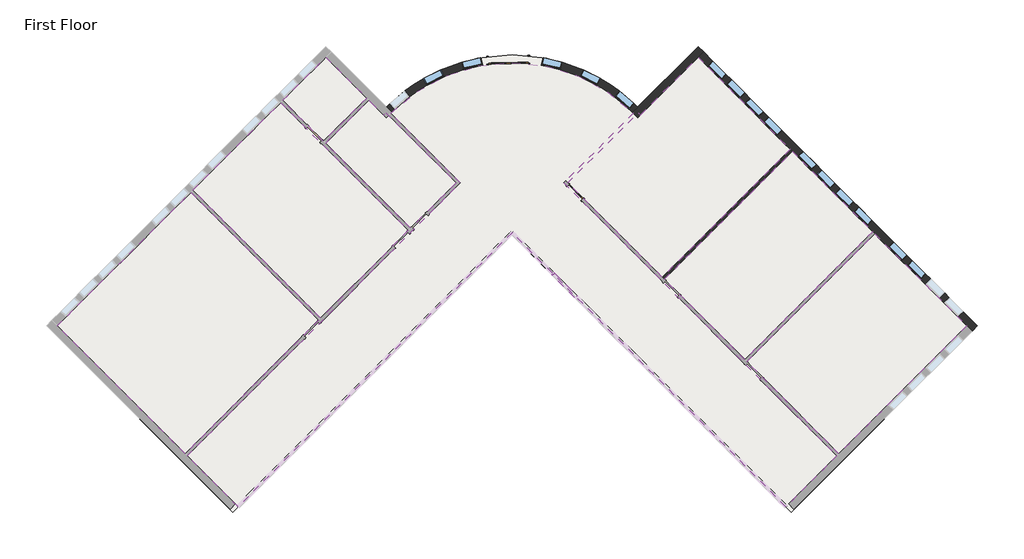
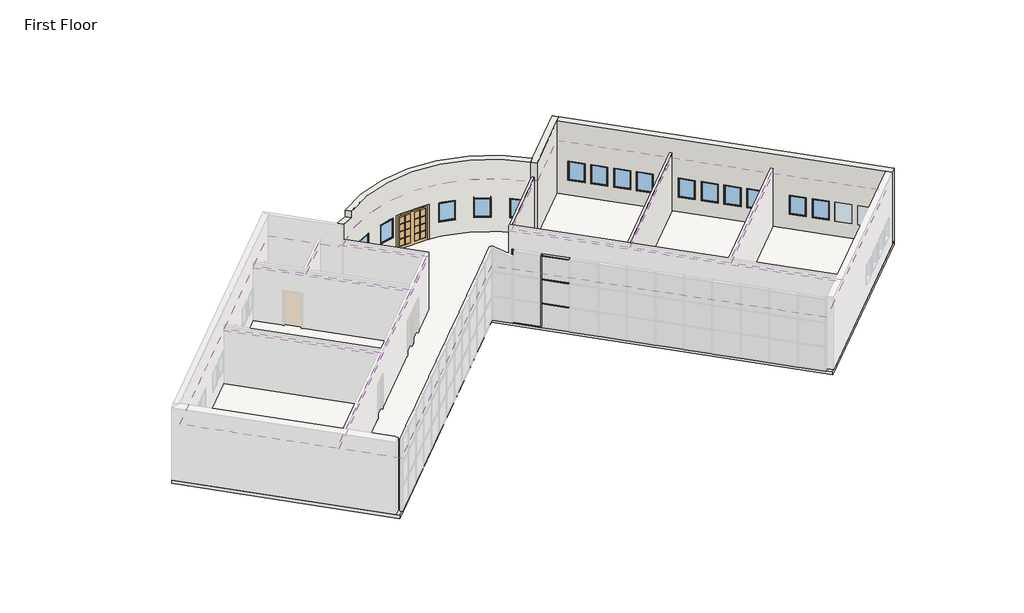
# One storey, part 4 of 4: 15 windows, 8 coverings, 7 members, 5 walls, 2 doors, 1 slab.
"""IFC4 building model written with IfcOpenShell, lengths in millimetres."""

from ifc_helpers import new_model, si_unit, point, frame, frame_2d, origin, origin_with_axes, place, context, project, spatial, polyline, circle_curve, ellipse_curve, trimmed, segment, composite_curve, outline, extrude, faceted_brep, transform, mapped, element, save
from ifc_brep_helpers import plane_surface, cylinder_surface, revolved_surface, advanced_brep
from components import m_double_glass_2_1830_x_2134mm_ef281dce, m_single_glass_1_0915_x_2134mm_4e5e1233, rectangular_mullion_50_x_150mm_40297ad3, rectangular_mullion_50_x_150mm_f494fff1, rectangular_mullion_50_x_150mm_5da8f88f, m_fixed_0915_x_1220mm_bde29121, m_fixed_0915_x_1220mm_2a2509e7

model = new_model("IFC4")

# Units and contexts
model_context = context("Model", 3, world=origin())
ifc_project = project(units=[si_unit("LENGTHUNIT", "METRE", prefix="MILLI")], contexts=[model_context])

# Site, building, storey
site = spatial("IfcSite", under=ifc_project)
building = spatial("IfcBuilding", under=site)
storey = spatial("IfcBuildingStorey", under=building, Name="First Floor", Elevation=0.0)

# Coverings
placement = place(None, origin())
element("IfcCovering", 1, ObjectType="600 x 600mm grid", at=placement, inside=storey, context=model_context, shape_type="SweptSolid", body=[
    extrude(outline(polyline([(-10551.8033322, -2052.473346), (-16737.0431239, -8237.7131378), (-22658.8856396, -2315.870622), (-16473.6458479, 3869.3691697), (-10551.8033322, -2052.473346)])), frame((0.0, 0.0, 3353.0), z_axis=(0.0, 0.0, 1.0), x_axis=(1.0, 0.0, 0.0)), (0.0, 0.0, 1.0), 52.0),
])
element("IfcCovering", 2, ObjectType="600 x 600mm grid", at=placement, inside=storey, context=model_context, shape_type="SweptSolid", body=[
    extrude(outline(polyline([(-16375.7115587, 3967.3034589), (-12319.9238385, 8023.0911791), (-6398.0813228, 2101.2486633), (-10453.869043, -1954.5390569), (-16375.7115587, 3967.3034589)])), frame((0.0, 0.0, 3353.0), z_axis=(0.0, 0.0, 1.0), x_axis=(1.0, 0.0, 0.0)), (0.0, 0.0, 1.0), 52.0),
])
element("IfcCovering", 3, ObjectType="600 x 600mm grid", at=placement, inside=storey, context=model_context, shape_type="SweptSolid", body=[
    extrude(outline(polyline([(-8233.7305267, 8132.1624001), (-7543.133828, 7441.5657013), (-7436.5374807, 7548.1620486), (-4193.8527091, 4305.477277), (-6300.1470336, 2199.1829525), (-10233.4285039, 6132.4644229), (-8233.7305267, 8132.1624001)])), frame((0.0, 0.0, 3353.0), z_axis=(0.0, 0.0, 1.0), x_axis=(1.0, 0.0, 0.0)), (0.0, 0.0, 1.0), 52.0),
])
element("IfcCovering", 4, ObjectType="600 x 600mm grid", at=placement, inside=storey, context=model_context, shape_type="SweptSolid", body=[
    extrude(outline(polyline([(-12221.9895493, 8121.0254683), (-10222.2915721, 10120.7234455), (-8331.6648159, 8230.0966893), (-10331.3627931, 6230.3987121), (-12221.9895493, 8121.0254683)])), frame((0.0, 0.0, 3353.0), z_axis=(0.0, 0.0, 1.0), x_axis=(1.0, 0.0, 0.0)), (0.0, 0.0, 1.0), 52.0),
])
element("IfcCovering", 5, ObjectType="600 x 600mm grid", at=placement, inside=storey, context=model_context, shape_type="SweptSolid", body=[
    extrude(outline(composite_curve([segment(polyline([(795.4927389, 4305.477277), (13436.6174429, -8335.647427), (11082.835745, -10689.4291248), (-1601.2456959, 1994.6523161), (-14285.3271368, -10689.4291248), (-16639.1088347, -8335.647427), (-3997.9841307, 4305.477277), (-7216.038281, 7523.5314273)]), True, "CONTINUOUS"), segment(trimmed(circle_curve(frame_2d((-1601.2456959, 1994.6523161)), 7880.0), [point((-7216.038281, 7523.5314273))], [point((4013.5468892, 7523.5314273))], False, "CARTESIAN"), True, "CONTINUOUS"), segment(polyline([(4013.5468892, 7523.5314273), (795.4927389, 4305.477277)]), True, "CONTINUOUS")], self_intersect=False)), frame((0.0, 0.0, 3353.0), z_axis=(0.0, 0.0, 1.0), x_axis=(1.0, 0.0, 0.0)), (0.0, 0.0, 1.0), 52.0),
])
element("IfcCovering", 6, ObjectType="600 x 600mm grid", at=placement, inside=storey, context=model_context, shape_type="SweptSolid", body=[
    extrude(outline(polyline([(4234.0460889, 7548.1620486), (4340.6424361, 7441.5657013), (7019.8001803, 10120.7234455), (11281.3559738, 5859.167652), (5359.5134581, -62.6748638), (991.3613173, 4305.477277), (4234.0460889, 7548.1620486)])), frame((0.0, 0.0, 3353.0), z_axis=(0.0, 0.0, 1.0), x_axis=(1.0, 0.0, 0.0)), (0.0, 0.0, 1.0), 52.0),
])
element("IfcCovering", 7, ObjectType="600 x 600mm grid", at=placement, inside=storey, context=model_context, shape_type="SweptSolid", body=[
    extrude(outline(polyline([(11379.290263, 5761.2333628), (15096.9041651, 2043.6194607), (9175.0616494, -3878.2230551), (5457.4477473, -160.609153), (11379.290263, 5761.2333628)])), frame((0.0, 0.0, 3353.0), z_axis=(0.0, 0.0, 1.0), x_axis=(1.0, 0.0, 0.0)), (0.0, 0.0, 1.0), 52.0),
])
element("IfcCovering", 8, ObjectType="600 x 600mm grid", at=placement, inside=storey, context=model_context, shape_type="SweptSolid", body=[
    extrude(outline(polyline([(15194.8384543, 1945.6851715), (19456.3942478, -2315.870622), (13534.5517321, -8237.7131378), (9272.9959386, -3976.1573443), (15194.8384543, 1945.6851715)])), frame((0.0, 0.0, 3353.0), z_axis=(0.0, 0.0, 1.0), x_axis=(1.0, 0.0, 0.0)), (0.0, 0.0, 1.0), 52.0),
])

# Doors
m_double_glass_2_1830_x_2134mm_shape = m_double_glass_2_1830_x_2134mm_ef281dce(model_context)
element("IfcDoor", 9, ObjectType="M_Double-Glass 2 : 1830 x 2134mm", at=placement, inside=storey, context=model_context, shape_type="MappedRepresentation", body=[
    mapped(m_double_glass_2_1830_x_2134mm_shape, transform((-1775.1372024, 9996.7407669, 0.0), x_axis=(-0.9997639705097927, -0.021725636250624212, 0.0), y_axis=(0.021725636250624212, -0.9997639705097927, 0.0), z_axis=(0.0, 0.0, 1.0))),
])
m_single_glass_1_0915_x_2134mm_shape = m_single_glass_1_0915_x_2134mm_4e5e1233(model_context)
element("IfcDoor", 10, ObjectType="M_Single-Glass 1 : 0915 x 2134mm", at=placement, inside=storey, context=model_context, shape_type="MappedRepresentation", body=[
    mapped(m_single_glass_1_0915_x_2134mm_shape, transform((1324.7621646, 3874.1421405, 0.0), x_axis=(-0.7071067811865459, 0.7071067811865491, 0.0), y_axis=(-0.7071067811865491, -0.7071067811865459, 0.0), z_axis=(0.0, 0.0, 1.0))),
])

# Members
rectangular_mullion_50_x_150mm_shape = rectangular_mullion_50_x_150mm_40297ad3(model_context)
element("IfcMember", 11, ObjectType="Rectangular Mullion : 50 x 150mm", at=placement, inside=storey, context=model_context, shape_type="MappedRepresentation", body=[
    mapped(rectangular_mullion_50_x_150mm_shape, transform((306.5283995, 86.8782206, 0.0), x_axis=(-0.7071067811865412, 0.7071067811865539, 0.0), y_axis=(0.7071067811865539, 0.7071067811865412, 0.0), z_axis=(0.0, 0.0, -1.0))),
])
rectangular_mullion_50_x_150mm_2_shape = rectangular_mullion_50_x_150mm_f494fff1(model_context)
element("IfcMember", 12, ObjectType="Rectangular Mullion : 50 x 150mm", at=placement, inside=storey, context=model_context, shape_type="MappedRepresentation", body=[
    mapped(rectangular_mullion_50_x_150mm_2_shape, transform((324.206069, 69.2005511, 1524.0), x_axis=(0.0, 0.0, 1.0), y_axis=(0.7071067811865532, 0.7071067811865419, 0.0), z_axis=(-0.7071067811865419, 0.7071067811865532, 0.0))),
])
element("IfcMember", 13, ObjectType="Rectangular Mullion : 50 x 150mm", at=placement, inside=storey, context=model_context, shape_type="MappedRepresentation", body=[
    mapped(rectangular_mullion_50_x_150mm_2_shape, transform((324.206069, 69.2005511, 3048.0), x_axis=(0.0, 0.0, 1.0), y_axis=(0.7071067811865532, 0.7071067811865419, 0.0), z_axis=(-0.7071067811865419, 0.7071067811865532, 0.0))),
])
rectangular_mullion_50_x_150mm_3_shape = rectangular_mullion_50_x_150mm_5da8f88f(model_context)
element("IfcMember", 14, ObjectType="Rectangular Mullion : 50 x 150mm", at=placement, inside=storey, context=model_context, shape_type="MappedRepresentation", body=[
    mapped(rectangular_mullion_50_x_150mm_3_shape, transform((288.85073, 104.5558902, 0.0), x_axis=(0.0, 0.0, -1.0), y_axis=(0.7071067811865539, 0.7071067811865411, 0.0), z_axis=(0.7071067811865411, -0.7071067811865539, 0.0))),
])
element("IfcMember", 15, ObjectType="Rectangular Mullion : 50 x 150mm", at=placement, inside=storey, context=model_context, shape_type="MappedRepresentation", body=[
    mapped(rectangular_mullion_50_x_150mm_3_shape, transform((324.206069, 69.2005511, 4572.0), x_axis=(0.0, 0.0, 1.0), y_axis=(0.7071067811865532, 0.7071067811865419, 0.0), z_axis=(-0.7071067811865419, 0.7071067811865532, 0.0))),
])
element("IfcMember", 16, ObjectType="Rectangular Mullion : 50 x 150mm", at=placement, inside=storey, context=model_context, shape_type="MappedRepresentation", body=[
    mapped(rectangular_mullion_50_x_150mm_shape, transform((306.5283995, 86.8782206, 1524.0), x_axis=(-0.7071067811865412, 0.7071067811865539, 0.0), y_axis=(0.7071067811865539, 0.7071067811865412, 0.0), z_axis=(0.0, 0.0, -1.0))),
])
element("IfcMember", 17, ObjectType="Rectangular Mullion : 50 x 150mm", at=placement, inside=storey, context=model_context, shape_type="MappedRepresentation", body=[
    mapped(rectangular_mullion_50_x_150mm_shape, transform((306.5283995, 86.8782206, 3048.0), x_axis=(-0.7071067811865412, 0.7071067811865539, 0.0), y_axis=(0.7071067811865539, 0.7071067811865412, 0.0), z_axis=(0.0, 0.0, -1.0))),
])

# Slab
element("IfcSlab", 18, ObjectType="160mm Concrete With 50mm Metal Deck", at=placement, inside=storey, context=model_context, shape_type="SweptSolid", body=[
    extrude(outline(composite_curve([segment(polyline([(-10222.2915721, 10615.6981923), (-7420.7345051, 7814.1411252)]), True, "CONTINUOUS"), segment(trimmed(circle_curve(frame_2d((-1601.2456959, 1994.6523161)), 8230.0), [point((-7420.7345051, 7814.1411252))], [point((4218.2431133, 7814.1411252))], False, "CARTESIAN"), True, "CONTINUOUS"), segment(polyline([(4218.2431133, 7814.1411252), (7019.8001803, 10615.6981923), (19951.3689947, -2315.870622), (11330.3231184, -10936.9164983), (-1601.2456959, 1994.6523161), (-14532.8145102, -10936.9164983), (-23153.8603865, -2315.870622), (-10222.2915721, 10615.6981923)]), True, "CONTINUOUS")], self_intersect=False)), frame((0.0, 0.0, -210.0), z_axis=(0.0, 0.0, 1.0), x_axis=(1.0, 0.0, 0.0)), (0.0, 0.0, 1.0), 210.0),
])

# Walls
element("IfcWall", 19, ObjectType="Exterior - Brick on Mtl. Stud", at=placement, inside=storey, context=model_context, shape_type="AdvancedBrep", body=[
    advanced_brep(
    [(4212.7441701, 7313.6674352, 4572.0), (4212.7441701, 7313.6674352, 0.0), (7019.8001803, 10120.7234455, 0.0), (7267.2875537, 10368.2108189, 0.0), (7267.2875537, 10368.2108189, 4572.0), (7019.8001803, 10120.7234455, 4572.0), (3970.7557398, 7566.6537518, 0.0), (3970.7557398, 7566.6537518, 4572.0), (4218.2431133, 7814.1411252, 4572.0), (7019.8001803, 10615.6981923, 4572.0), (7019.8001803, 10615.6981923, 0.0), (4218.2431133, 7814.1411252, 0.0), (4109.8638796, 7423.9826013, 0.0), (4013.5506313, 7523.5275434, 0.0)],
    [
        (0, 1),
        (1, 2),
        (2, 3),
        (3, 4),
        (4, 5),
        (5, 0),
        (6, 7),
        (7, 8),
        (8, 9),
        (9, 10),
        (10, 11),
        (11, 6),
        (1, 12, circle_curve(frame((-1601.2456959, 1994.6523161, 0.0), z_axis=(0.0, 0.0, 1.0), x_axis=(1.0, 0.0, 0.0)), 7880.0)),
        (12, 13, circle_curve(frame((-1601.2456959, 1994.6523161, 0.0), z_axis=(0.0, 0.0, 1.0), x_axis=(1.0, 0.0, 0.0)), 7879.9999955)),
        (13, 6, circle_curve(frame((-1601.2456959, 1994.6523161, 0.0), z_axis=(0.0, 0.0, 1.0), x_axis=(1.0, 0.0, 0.0)), 7879.9999413)),
        (10, 3),
        (4, 9),
        (7, 0, circle_curve(frame((-1601.2456959, 1994.6523161, 4572.0), z_axis=(0.0, 0.0, -1.0), x_axis=(1.0, 0.0, 0.0)), 7880.0)),
    ],
    [
        plane_surface(frame((4250.0629184, 7350.9861836, 0.0), z_axis=(0.7071067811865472, -0.7071067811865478, 0.0), x_axis=(0.7071067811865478, 0.7071067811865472, 0.0))),
        plane_surface(frame((4002.575545, 7598.473557, 0.0), z_axis=(-0.7071067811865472, 0.7071067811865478, 0.0), x_axis=(-0.7071067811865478, -0.7071067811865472, 0.0))),
        plane_surface(frame((4340.6424361, 7441.5657013, 0.0), z_axis=(0.0, 0.0, -1.0), x_axis=(-0.7071067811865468, 0.7071067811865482, 0.0))),
        plane_surface(frame((7143.543867, 10244.4671322, 4572.0), z_axis=(0.0, 0.0, 1.0), x_axis=(-0.707106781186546, 0.7071067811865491, 0.0))),
        plane_surface(frame((7019.8001803, 10615.6981923, 0.0), z_axis=(0.7071067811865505, 0.7071067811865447, 0.0), x_axis=(-0.7071067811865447, 0.7071067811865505, 0.0))),
        revolved_surface(polyline([(6278.7543041, 1994.6523161, 0.0), (6278.7543041, 1994.6523161, 4572.0)]), (-1601.2456959, 1994.6523161, 0.0), (0.0, 0.0, -1.0)),
    ],
    [
        (0, [[1, 2, 3, 4, 5, 6]]),
        (1, [[7, 8, 9, 10, 11, 12]]),
        (2, [[-3, -2, 13, 14, 15, -12, -11, 16]]),
        (3, [[-6, -5, 17, -9, -8, 18]]),
        (4, [[-4, -16, -10, -17]]),
        (5, [[-18, -7, -15, -14, -13, -1]]),
    ],
),
])
element("IfcWall", 20, ObjectType="Exterior - Brick on Mtl. Stud", at=placement, inside=storey, context=model_context, shape_type="Brep", body=[
    faceted_brep([(7019.8001803, 10120.7234455, 0.0), (11281.3559738, 5859.167652, 0.0), (11379.290263, 5761.2333628, 0.0), (15096.9041651, 2043.6194607, 0.0), (15194.8384543, 1945.6851715, 0.0), (19456.3942478, -2315.870622, 0.0), (19703.8816212, -2563.3579955, 0.0), (19703.8816212, -2563.3579955, 4572.0), (19456.3942478, -2315.870622, 4572.0), (7019.8001803, 10120.7234455, 4572.0), (19041.6761207, -1901.1524949, 915.0), (18394.6734159, -1254.1497901, 915.0), (18394.6734159, -1254.1497901, 2135.0), (19041.6761207, -1901.1524949, 2135.0), (18179.7129544, -1039.1893286, 915.0), (17532.7102496, -392.1866238, 915.0), (17532.7102496, -392.1866238, 2135.0), (18179.7129544, -1039.1893286, 2135.0), (17317.7497881, -177.2261623, 915.0), (16670.7470833, 469.7765424, 915.0), (16670.7470833, 469.7765424, 2135.0), (17317.7497881, -177.2261623, 2135.0), (16455.7866219, 684.7370039, 915.0), (15808.7839171, 1331.7397087, 915.0), (15808.7839171, 1331.7397087, 2135.0), (16455.7866219, 684.7370039, 2135.0), (12257.1680181, 4883.3556077, 915.0), (11610.1653133, 5530.3583124, 915.0), (11610.1653133, 5530.3583124, 2135.0), (12257.1680181, 4883.3556077, 2135.0), (13119.1311844, 4021.3924414, 915.0), (12472.1284796, 4668.3951462, 915.0), (12472.1284796, 4668.3951462, 2135.0), (13119.1311844, 4021.3924414, 2135.0), (13981.0943507, 3159.4292751, 915.0), (13334.0916459, 3806.4319799, 915.0), (13334.0916459, 3806.4319799, 2135.0), (13981.0943507, 3159.4292751, 2135.0), (14843.0575169, 2297.4661089, 915.0), (14196.0548121, 2944.4688136, 915.0), (14196.0548121, 2944.4688136, 2135.0), (14843.0575169, 2297.4661089, 2135.0), (8081.5210123, 9059.0026135, 915.0), (7434.5183075, 9706.0053183, 915.0), (7434.5183075, 9706.0053183, 2135.0), (8081.5210123, 9059.0026135, 2135.0), (8943.4841785, 8197.0394473, 915.0), (8296.4814737, 8844.042152, 915.0), (8296.4814737, 8844.042152, 2135.0), (8943.4841785, 8197.0394473, 2135.0), (9805.4473448, 7335.076281, 915.0), (9158.44464, 7982.0789858, 915.0), (9158.44464, 7982.0789858, 2135.0), (9805.4473448, 7335.076281, 2135.0), (10667.4105111, 6473.1131147, 915.0), (10020.4078063, 7120.1158195, 915.0), (10020.4078063, 7120.1158195, 2135.0), (10667.4105111, 6473.1131147, 2135.0), (7267.2875537, 10368.2108189, 0.0), (7267.2875537, 10368.2108189, 4572.0), (19951.3689947, -2315.870622, 4572.0), (19951.3689947, -2315.870622, 0.0), (19289.1634941, -1653.6651215, 915.0), (19289.1634941, -1653.6651215, 2135.0), (18642.1607893, -1006.6624167, 2135.0), (18642.1607893, -1006.6624167, 915.0), (18427.2003278, -791.7019552, 915.0), (18427.2003278, -791.7019552, 2135.0), (17780.197623, -144.6992504, 2135.0), (17780.197623, -144.6992504, 915.0), (17565.2371615, 70.2612111, 915.0), (17565.2371615, 70.2612111, 2135.0), (16918.2344568, 717.2639159, 2135.0), (16918.2344568, 717.2639159, 915.0), (16703.2739953, 932.2243773, 915.0), (16703.2739953, 932.2243773, 2135.0), (16056.2712905, 1579.2270821, 2135.0), (16056.2712905, 1579.2270821, 915.0), (12504.6553915, 5130.8429811, 915.0), (12504.6553915, 5130.8429811, 2135.0), (11857.6526868, 5777.8456859, 2135.0), (11857.6526868, 5777.8456859, 915.0), (13366.6185578, 4268.8798148, 915.0), (13366.6185578, 4268.8798148, 2135.0), (12719.615853, 4915.8825196, 2135.0), (12719.615853, 4915.8825196, 915.0), (14228.5817241, 3406.9166485, 915.0), (14228.5817241, 3406.9166485, 2135.0), (13581.5790193, 4053.9193533, 2135.0), (13581.5790193, 4053.9193533, 915.0), (15090.5448903, 2544.9534823, 915.0), (15090.5448903, 2544.9534823, 2135.0), (14443.5421856, 3191.9561871, 2135.0), (14443.5421856, 3191.9561871, 915.0), (8329.0083857, 9306.4899869, 915.0), (8329.0083857, 9306.4899869, 2135.0), (7682.0056809, 9953.4926917, 2135.0), (7682.0056809, 9953.4926917, 915.0), (9190.971552, 8444.5268207, 915.0), (9190.971552, 8444.5268207, 2135.0), (8543.9688472, 9091.5295255, 2135.0), (8543.9688472, 9091.5295255, 915.0), (10052.9347182, 7582.5636544, 915.0), (10052.9347182, 7582.5636544, 2135.0), (9405.9320134, 8229.5663592, 2135.0), (9405.9320134, 8229.5663592, 915.0), (10914.8978845, 6720.6004881, 915.0), (10914.8978845, 6720.6004881, 2135.0), (10267.8951797, 7367.6031929, 2135.0), (10267.8951797, 7367.6031929, 915.0)], [[[0, 1, 2, 3, 4, 5, 6, 7, 8, 9], [10, 11, 12, 13], [14, 15, 16, 17], [18, 19, 20, 21], [22, 23, 24, 25], [26, 27, 28, 29], [30, 31, 32, 33], [34, 35, 36, 37], [38, 39, 40, 41], [42, 43, 44, 45], [46, 47, 48, 49], [50, 51, 52, 53], [54, 55, 56, 57]], [[58, 59, 60, 61], [62, 63, 64, 65], [66, 67, 68, 69], [70, 71, 72, 73], [74, 75, 76, 77], [78, 79, 80, 81], [82, 83, 84, 85], [86, 87, 88, 89], [90, 91, 92, 93], [94, 95, 96, 97], [98, 99, 100, 101], [102, 103, 104, 105], [106, 107, 108, 109]], [[6, 5, 4, 3, 2, 1, 0, 58, 61]], [[9, 8, 7, 60, 59]], [[0, 9, 59, 58]], [[7, 6, 61, 60]], [[63, 62, 10, 13]], [[64, 63, 13, 12]], [[65, 64, 12, 11]], [[62, 65, 11, 10]], [[67, 66, 14, 17]], [[68, 67, 17, 16]], [[69, 68, 16, 15]], [[66, 69, 15, 14]], [[71, 70, 18, 21]], [[72, 71, 21, 20]], [[73, 72, 20, 19]], [[70, 73, 19, 18]], [[75, 74, 22, 25]], [[76, 75, 25, 24]], [[77, 76, 24, 23]], [[74, 77, 23, 22]], [[79, 78, 26, 29]], [[80, 79, 29, 28]], [[81, 80, 28, 27]], [[78, 81, 27, 26]], [[83, 82, 30, 33]], [[84, 83, 33, 32]], [[85, 84, 32, 31]], [[82, 85, 31, 30]], [[87, 86, 34, 37]], [[88, 87, 37, 36]], [[89, 88, 36, 35]], [[86, 89, 35, 34]], [[91, 90, 38, 41]], [[92, 91, 41, 40]], [[93, 92, 40, 39]], [[90, 93, 39, 38]], [[95, 94, 42, 45]], [[96, 95, 45, 44]], [[97, 96, 44, 43]], [[94, 97, 43, 42]], [[99, 98, 46, 49]], [[100, 99, 49, 48]], [[101, 100, 48, 47]], [[98, 101, 47, 46]], [[103, 102, 50, 53]], [[104, 103, 53, 52]], [[105, 104, 52, 51]], [[102, 105, 51, 50]], [[107, 106, 54, 57]], [[108, 107, 57, 56]], [[109, 108, 56, 55]], [[106, 109, 55, 54]]]),
])
element("IfcWall", 21, ObjectType="Exterior - Brick on Mtl. Stud", at=placement, inside=storey, context=model_context, shape_type="AdvancedBrep", body=[
    advanced_brep(
    [(-7420.7345051, 7814.1411252, 0.0), (-7420.7345051, 7814.1411252, 4572.0), (-6493.7687298, 8612.515896, 4164.7405634), (-6493.7687298, 8612.515896, 4572.0), (4218.2431133, 7814.1411252, 4572.0), (4218.2431133, 7814.1411252, 0.0), (-864.1551557, 10191.5784189, 0.0), (-864.1551557, 10191.5784189, 2134.0), (-2693.7232217, 10151.8205046, 2134.0), (-2693.7232217, 10151.8205046, 0.0), (-6560.8584073, 8562.3872188, 915.0), (-6560.8584073, 8562.3872188, 2135.0), (-7259.2688911, 7971.2461222, 2135.0), (-7259.2688911, 7971.2461222, 915.0), (-3038.6037285, 10098.1640169, 915.0), (-3038.6037285, 10098.1640169, 2135.0), (-3929.264468, 9888.5251676, 2135.0), (-3929.264468, 9888.5251676, 915.0), (-4890.6166492, 9538.7187747, 915.0), (-4890.6166492, 9538.7187747, 2135.0), (-5707.7291441, 9126.9516431, 2135.0), (-5707.7291441, 9126.9516431, 915.0), (1688.1252574, 9538.7187747, 915.0), (2505.2377523, 9126.9516431, 915.0), (2505.2377523, 9126.9516431, 2135.0), (1688.1252574, 9538.7187747, 2135.0), (-163.8876633, 10098.1640169, 915.0), (726.7730762, 9888.5251676, 915.0), (726.7730762, 9888.5251676, 2135.0), (-163.8876633, 10098.1640169, 2135.0), (3358.3670155, 8562.3872188, 915.0), (4056.7774992, 7971.2461222, 915.0), (4056.7774992, 7971.2461222, 2135.0), (3358.3670155, 8562.3872188, 2135.0), (-7173.2471317, 7566.6537518, 4572.0), (-7173.2471317, 7566.6537518, 0.0), (-2686.0696858, 9799.6223295, 0.0), (-2686.0696858, 9799.6223295, 2134.0), (-856.5016198, 9839.3802439, 2134.0), (-856.5016198, 9839.3802439, 0.0), (3970.7557398, 7566.6537518, 0.0), (3970.7557398, 7566.6537518, 4572.0), (-6243.3914961, 8362.1386623, 4572.0), (-6243.3914961, 8362.1386623, 4164.7405634), (-6334.373084, 8294.8035149, 2135.0), (-6334.373084, 8294.8035149, 915.0), (-7032.7835678, 7703.6624182, 915.0), (-7032.7835678, 7703.6624182, 2135.0), (-2958.2842873, 9756.9230059, 2135.0), (-2958.2842873, 9756.9230059, 915.0), (-3848.9450268, 9547.2841566, 915.0), (-3848.9450268, 9547.2841566, 2135.0), (-4732.8553085, 9225.6564811, 915.0), (-5549.9678034, 8813.8893495, 915.0), (-5549.9678034, 8813.8893495, 2135.0), (-4732.8553085, 9225.6564811, 2135.0), (1530.3639167, 9225.6564811, 915.0), (1530.3639167, 9225.6564811, 2135.0), (2347.4764116, 8813.8893495, 2135.0), (2347.4764116, 8813.8893495, 915.0), (-244.2071045, 9756.9230059, 915.0), (-244.2071045, 9756.9230059, 2135.0), (646.453635, 9547.2841566, 2135.0), (646.453635, 9547.2841566, 915.0), (3131.8816922, 8294.8035149, 915.0), (3131.8816922, 8294.8035149, 2135.0), (3830.2921759, 7703.6624182, 2135.0), (3830.2921759, 7703.6624182, 915.0)],
    [
        (0, 1),
        (1, 2, ellipse_curve(frame((-1601.2456959, 1994.6523161, 4572.0), z_axis=(-0.22390007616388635, -0.2239000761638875, -0.9485449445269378), x_axis=(-0.6707225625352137, -0.6707225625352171, 0.3166425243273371)), 8676.447065, 8230.0)),
        (2, 3),
        (3, 4, circle_curve(frame((-1601.2456959, 1994.6523161, 4572.0), z_axis=(0.0, 0.0, -1.0), x_axis=(1.0, 0.0, 0.0)), 8230.0)),
        (4, 5),
        (5, 6, circle_curve(frame((-1601.2456959, 1994.6523161, 0.0), z_axis=(0.0, 0.0, 1.0), x_axis=(1.0, 0.0, 0.0)), 8230.0)),
        (6, 7),
        (7, 8, circle_curve(frame((-1601.2456959, 1994.6523161, 2134.0), z_axis=(0.0, 0.0, 1.0), x_axis=(1.0, 0.0, 0.0)), 8230.0)),
        (8, 9),
        (9, 0, circle_curve(frame((-1601.2456959, 1994.6523161, 0.0), z_axis=(0.0, 0.0, 1.0), x_axis=(1.0, 0.0, 0.0)), 8230.0)),
        (10, 11),
        (11, 12, circle_curve(frame((-1601.2456959, 1994.6523161, 2135.0), z_axis=(0.0, 0.0, 1.0), x_axis=(1.0, 0.0, 0.0)), 8230.0)),
        (12, 13),
        (13, 10, circle_curve(frame((-1601.2456959, 1994.6523161, 915.0), z_axis=(0.0, 0.0, -1.0), x_axis=(1.0, 0.0, 0.0)), 8230.0)),
        (14, 15),
        (15, 16, circle_curve(frame((-1601.2456959, 1994.6523161, 2135.0), z_axis=(0.0, 0.0, 1.0), x_axis=(1.0, 0.0, 0.0)), 8230.0)),
        (16, 17),
        (17, 14, circle_curve(frame((-1601.2456959, 1994.6523161, 915.0), z_axis=(0.0, 0.0, -1.0), x_axis=(1.0, 0.0, 0.0)), 8230.0)),
        (18, 19),
        (19, 20, circle_curve(frame((-1601.2456959, 1994.6523161, 2135.0), z_axis=(0.0, 0.0, 1.0), x_axis=(1.0, 0.0, 0.0)), 8230.0)),
        (20, 21),
        (21, 18, circle_curve(frame((-1601.2456959, 1994.6523161, 915.0), z_axis=(0.0, 0.0, -1.0), x_axis=(1.0, 0.0, 0.0)), 8230.0)),
        (22, 23, circle_curve(frame((-1601.2456959, 1994.6523161, 915.0), z_axis=(0.0, 0.0, -1.0), x_axis=(1.0, 0.0, 0.0)), 8230.0)),
        (23, 24),
        (24, 25, circle_curve(frame((-1601.2456959, 1994.6523161, 2135.0), z_axis=(0.0, 0.0, 1.0), x_axis=(1.0, 0.0, 0.0)), 8230.0)),
        (25, 22),
        (26, 27, circle_curve(frame((-1601.2456959, 1994.6523161, 915.0), z_axis=(0.0, 0.0, -1.0), x_axis=(1.0, 0.0, 0.0)), 8230.0)),
        (27, 28),
        (28, 29, circle_curve(frame((-1601.2456959, 1994.6523161, 2135.0), z_axis=(0.0, 0.0, 1.0), x_axis=(1.0, 0.0, 0.0)), 8230.0)),
        (29, 26),
        (30, 31, circle_curve(frame((-1601.2456959, 1994.6523161, 915.0), z_axis=(0.0, 0.0, -1.0), x_axis=(1.0, 0.0, 0.0)), 8230.0)),
        (31, 32),
        (32, 33, circle_curve(frame((-1601.2456959, 1994.6523161, 2135.0), z_axis=(0.0, 0.0, 1.0), x_axis=(1.0, 0.0, 0.0)), 8230.0)),
        (33, 30),
        (34, 35),
        (35, 36, circle_curve(frame((-1601.2456959, 1994.6523161, 0.0), z_axis=(0.0, 0.0, -1.0), x_axis=(1.0, 0.0, 0.0)), 7880.0)),
        (36, 37),
        (37, 38, circle_curve(frame((-1601.2456959, 1994.6523161, 2134.0), z_axis=(0.0, 0.0, -1.0), x_axis=(1.0, 0.0, 0.0)), 7880.0)),
        (38, 39),
        (39, 40, circle_curve(frame((-1601.2456959, 1994.6523161, 0.0), z_axis=(0.0, 0.0, -1.0), x_axis=(1.0, 0.0, 0.0)), 7880.0)),
        (40, 41),
        (41, 42, circle_curve(frame((-1601.2456959, 1994.6523161, 4572.0), z_axis=(0.0, 0.0, 1.0), x_axis=(1.0, 0.0, 0.0)), 7880.0)),
        (42, 43),
        (43, 34, ellipse_curve(frame((-1601.2456959, 1994.6523161, 4572.0), z_axis=(0.22390007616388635, 0.2239000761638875, 0.9485449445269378), x_axis=(0.6707225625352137, 0.6707225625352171, -0.3166425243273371)), 8307.4608594, 7880.0)),
        (44, 45),
        (45, 46, circle_curve(frame((-1601.2456959, 1994.6523161, 915.0), z_axis=(0.0, 0.0, 1.0), x_axis=(1.0, 0.0, 0.0)), 7880.0)),
        (46, 47),
        (47, 44, circle_curve(frame((-1601.2456959, 1994.6523161, 2135.0), z_axis=(0.0, 0.0, -1.0), x_axis=(1.0, 0.0, 0.0)), 7880.0)),
        (48, 49),
        (49, 50, circle_curve(frame((-1601.2456959, 1994.6523161, 915.0), z_axis=(0.0, 0.0, 1.0), x_axis=(1.0, 0.0, 0.0)), 7880.0)),
        (50, 51),
        (51, 48, circle_curve(frame((-1601.2456959, 1994.6523161, 2135.0), z_axis=(0.0, 0.0, -1.0), x_axis=(1.0, 0.0, 0.0)), 7880.0)),
        (52, 53, circle_curve(frame((-1601.2456959, 1994.6523161, 915.0), z_axis=(0.0, 0.0, 1.0), x_axis=(1.0, 0.0, 0.0)), 7880.0)),
        (53, 54),
        (54, 55, circle_curve(frame((-1601.2456959, 1994.6523161, 2135.0), z_axis=(0.0, 0.0, -1.0), x_axis=(1.0, 0.0, 0.0)), 7880.0)),
        (55, 52),
        (56, 57),
        (57, 58, circle_curve(frame((-1601.2456959, 1994.6523161, 2135.0), z_axis=(0.0, 0.0, -1.0), x_axis=(1.0, 0.0, 0.0)), 7880.0)),
        (58, 59),
        (59, 56, circle_curve(frame((-1601.2456959, 1994.6523161, 915.0), z_axis=(0.0, 0.0, 1.0), x_axis=(1.0, 0.0, 0.0)), 7880.0)),
        (60, 61),
        (61, 62, circle_curve(frame((-1601.2456959, 1994.6523161, 2135.0), z_axis=(0.0, 0.0, -1.0), x_axis=(1.0, 0.0, 0.0)), 7880.0)),
        (62, 63),
        (63, 60, circle_curve(frame((-1601.2456959, 1994.6523161, 915.0), z_axis=(0.0, 0.0, 1.0), x_axis=(1.0, 0.0, 0.0)), 7880.0)),
        (64, 65),
        (65, 66, circle_curve(frame((-1601.2456959, 1994.6523161, 2135.0), z_axis=(0.0, 0.0, -1.0), x_axis=(1.0, 0.0, 0.0)), 7880.0)),
        (66, 67),
        (67, 64, circle_curve(frame((-1601.2456959, 1994.6523161, 915.0), z_axis=(0.0, 0.0, 1.0), x_axis=(1.0, 0.0, 0.0)), 7880.0)),
        (0, 35),
        (34, 1),
        (4, 41),
        (40, 5),
        (8, 37),
        (36, 9),
        (7, 38),
        (6, 39),
        (10, 45),
        (44, 11),
        (47, 12),
        (46, 13),
        (14, 49),
        (48, 15),
        (51, 16),
        (50, 17),
        (18, 52),
        (55, 19),
        (54, 20),
        (53, 21),
        (56, 22),
        (25, 57),
        (24, 58),
        (23, 59),
        (60, 26),
        (29, 61),
        (28, 62),
        (27, 63),
        (64, 30),
        (33, 65),
        (32, 66),
        (31, 67),
        (3, 42),
        (2, 43),
    ],
    [
        cylinder_surface(frame((-1601.2456959, 1994.6523161, 0.0), z_axis=(0.0, 0.0, 1.0), x_axis=(1.0, 0.0, 0.0)), 8230.0),
        revolved_surface(polyline([(6278.7543041, 1994.6523161, 0.0), (6278.7543041, 1994.6523161, 7202.495377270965)]), (-1601.2456959, 1994.6523161, 0.0), (0.0, 0.0, -1.0)),
        plane_surface(frame((-10222.2915721, 10615.6981923, 0.0), z_axis=(-0.7071067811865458, -0.7071067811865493, 0.0), x_axis=(-0.7071067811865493, 0.7071067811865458, 0.0))),
        plane_surface(frame((4002.575545, 7598.473557, 0.0), z_axis=(0.7071067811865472, -0.7071067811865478, 0.0), x_axis=(-0.7071067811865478, -0.7071067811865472, 0.0))),
        plane_surface(frame((-2726.8330914, 11675.4607956, 0.0), z_axis=(0.9997639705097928, 0.021725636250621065, 0.0), x_axis=(0.021725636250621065, -0.9997639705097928, 0.0))),
        plane_surface(frame((-2726.8330914, 11675.4607956, 2134.0), z_axis=(0.0, 0.0, -1.0000000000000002), x_axis=(0.021725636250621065, -0.9997639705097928, 0.0))),
        plane_surface(frame((-897.2650253, 11715.21871, 2134.0), z_axis=(-0.9997639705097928, -0.021725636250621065, 0.0), x_axis=(0.021725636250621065, -0.9997639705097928, 0.0))),
        plane_surface(frame((-6560.8584073, 8562.3872188, 915.0), z_axis=(-0.7632901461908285, -0.6460558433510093, 0.0), x_axis=(0.6460558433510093, -0.7632901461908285, 0.0))),
        plane_surface(frame((-6560.8584073, 8562.3872188, 2135.0), z_axis=(0.0, 0.0, -1.0000000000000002), x_axis=(0.6460558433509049, -0.7632901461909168, 0.0))),
        plane_surface(frame((-7259.2688911, 7971.2461222, 2135.0), z_axis=(0.7632901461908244, 0.6460558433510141, 0.0), x_axis=(0.6460558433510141, -0.7632901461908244, 0.0))),
        plane_surface(frame((-7259.2688911, 7971.2461222, 915.0), z_axis=(0.0, 0.0, 1.0), x_axis=(0.6460558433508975, -0.7632901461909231, 0.0))),
        plane_surface(frame((-2689.4347599, 8614.7028508, 915.0), z_axis=(-0.9733997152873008, -0.22911349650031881, 0.0), x_axis=(-0.22911349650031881, 0.9733997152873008, 0.0))),
        plane_surface(frame((-2689.4347599, 8614.7028508, 2135.0), z_axis=(0.0, 0.0, -1.0), x_axis=(-0.22911349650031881, 0.9733997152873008, 0.0))),
        plane_surface(frame((-3580.0954993, 8405.0640015, 2135.0), z_axis=(0.9733997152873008, 0.2291134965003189, 0.0), x_axis=(-0.2291134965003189, 0.9733997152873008, 0.0))),
        plane_surface(frame((-3580.0954993, 8405.0640015, 915.0), z_axis=(0.0, 0.0, 1.0), x_axis=(-0.2291134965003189, 0.9733997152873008, 0.0))),
        plane_surface(frame((-4890.6166492, 9538.7187747, 915.0), z_axis=(-0.893019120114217, -0.45001872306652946, 0.0), x_axis=(0.45001872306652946, -0.893019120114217, 0.0))),
        plane_surface(frame((-4890.6166492, 9538.7187747, 2135.0), z_axis=(0.0, 0.0, -1.0), x_axis=(0.4500187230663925, -0.893019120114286, 0.0))),
        plane_surface(frame((-5707.7291441, 9126.9516431, 2135.0), z_axis=(0.8930191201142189, 0.4500187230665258, 0.0), x_axis=(0.4500187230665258, -0.8930191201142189, 0.0))),
        plane_surface(frame((-5707.7291441, 9126.9516431, 915.0), z_axis=(0.0, 0.0, 1.0), x_axis=(0.4500187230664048, -0.8930191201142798, 0.0))),
        plane_surface(frame((1530.3639167, 9225.6564811, 915.0), z_axis=(0.8930191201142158, -0.45001872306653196, 0.0), x_axis=(0.45001872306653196, 0.8930191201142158, 0.0))),
        plane_surface(frame((1530.3639167, 9225.6564811, 2135.0), z_axis=(0.0, 0.0, -1.0000000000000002), x_axis=(0.4500187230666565, 0.8930191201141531, 0.0))),
        plane_surface(frame((2347.4764116, 8813.8893495, 2135.0), z_axis=(-0.8930191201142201, 0.4500187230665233, 0.0), x_axis=(0.4500187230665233, 0.8930191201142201, 0.0))),
        plane_surface(frame((2347.4764116, 8813.8893495, 915.0), z_axis=(0.0, 0.0, 1.0000000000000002), x_axis=(0.45001872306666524, 0.8930191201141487, 0.0))),
        plane_surface(frame((-244.2071045, 9756.9230059, 915.0), z_axis=(0.9733997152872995, -0.22911349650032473, 0.0), x_axis=(0.22911349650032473, 0.9733997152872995, 0.0))),
        plane_surface(frame((-244.2071045, 9756.9230059, 2135.0), z_axis=(0.0, 0.0, -1.0), x_axis=(0.2291134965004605, 0.9733997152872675, 0.0))),
        plane_surface(frame((646.453635, 9547.2841566, 2135.0), z_axis=(-0.9733997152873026, 0.22911349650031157, 0.0), x_axis=(0.22911349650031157, 0.9733997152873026, 0.0))),
        plane_surface(frame((646.453635, 9547.2841566, 915.0), z_axis=(0.0, 0.0, 1.0000000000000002), x_axis=(0.22911349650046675, 0.9733997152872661, 0.0))),
        plane_surface(frame((3131.8816922, 8294.8035149, 915.0), z_axis=(0.7632901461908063, -0.6460558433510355, 0.0), x_axis=(0.6460558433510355, 0.7632901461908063, 0.0))),
        plane_surface(frame((3131.8816922, 8294.8035149, 2135.0), z_axis=(0.0, 0.0, -1.0), x_axis=(0.646055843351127, 0.7632901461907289, 0.0))),
        plane_surface(frame((3830.2921759, 7703.6624182, 2135.0), z_axis=(-0.76329014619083, 0.6460558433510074, 0.0), x_axis=(0.6460558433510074, 0.76329014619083, 0.0))),
        plane_surface(frame((3830.2921759, 7703.6624182, 915.0), z_axis=(0.0, 0.0, 1.0), x_axis=(0.6460558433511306, 0.7632901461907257, 0.0))),
        plane_surface(frame((6628.7543041, 1994.6523161, 4572.0), z_axis=(0.0, 0.0, 1.0), x_axis=(0.0, 1.0, 0.0))),
        plane_surface(frame((-5049.098361, 7167.8455272, 4164.7405634), z_axis=(-0.7071067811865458, -0.7071067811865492, 0.0), x_axis=(-0.7071067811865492, 0.7071067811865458, 0.0))),
        plane_surface(frame((124.0948502, 1994.6523161, 4164.7405634), z_axis=(0.22390007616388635, 0.2239000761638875, 0.9485449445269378), x_axis=(-0.7071067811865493, 0.7071067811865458, 0.0))),
        plane_surface(frame((-10098.5478854, 10491.9545056, 0.0), z_axis=(0.0, 0.0, -1.0000000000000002), x_axis=(-0.7071067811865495, 0.7071067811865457, 0.0))),
    ],
    [
        (0, [[1, 2, 3, 4, 5, 6, 7, 8, 9, 10], [11, 12, 13, 14], [15, 16, 17, 18], [19, 20, 21, 22], [23, 24, 25, 26], [27, 28, 29, 30], [31, 32, 33, 34]]),
        (1, [[35, 36, 37, 38, 39, 40, 41, 42, 43, 44], [45, 46, 47, 48], [49, 50, 51, 52], [53, 54, 55, 56], [57, 58, 59, 60], [61, 62, 63, 64], [65, 66, 67, 68]]),
        (2, [[-1, 69, -35, 70]]),
        (3, [[71, -41, 72, -5]]),
        (4, [[73, -37, 74, -9]]),
        (5, [[-73, -8, 75, -38]]),
        (6, [[-75, -7, 76, -39]]),
        (7, [[-11, 77, -45, 78]]),
        (8, [[-12, -78, -48, 79]]),
        (9, [[-13, -79, -47, 80]]),
        (10, [[-14, -80, -46, -77]]),
        (11, [[81, -49, 82, -15]]),
        (12, [[-82, -52, 83, -16]]),
        (13, [[-83, -51, 84, -17]]),
        (14, [[-81, -18, -84, -50]]),
        (15, [[-19, 85, -56, 86]]),
        (16, [[-20, -86, -55, 87]]),
        (17, [[-21, -87, -54, 88]]),
        (18, [[-22, -88, -53, -85]]),
        (19, [[-57, 89, -26, 90]]),
        (20, [[-58, -90, -25, 91]]),
        (21, [[-59, -91, -24, 92]]),
        (22, [[-60, -92, -23, -89]]),
        (23, [[-61, 93, -30, 94]]),
        (24, [[-62, -94, -29, 95]]),
        (25, [[-63, -95, -28, 96]]),
        (26, [[-64, -96, -27, -93]]),
        (27, [[-65, 97, -34, 98]]),
        (28, [[-66, -98, -33, 99]]),
        (29, [[-67, -99, -32, 100]]),
        (30, [[-68, -100, -31, -97]]),
        (31, [[-71, -4, 101, -42]]),
        (32, [[-101, -3, 102, -43]]),
        (33, [[-2, -70, -44, -102]]),
        (34, [[-69, -10, -74, -36]]),
        (34, [[-72, -40, -76, -6]]),
    ],
),
])
element("IfcWall", 22, ObjectType="Interior - 138mm Partition (1-hr)", at=placement, inside=storey, context=model_context, shape_type="SweptSolid", body=[
    extrude(outline(composite_curve([segment(polyline([(4109.8652288, 7423.9811885), (991.3613173, 4305.477277), (893.4270281, 4403.4115662), (4013.5468892, 7523.5314273)]), True, "CONTINUOUS"), segment(trimmed(circle_curve(frame_2d((-1601.2456959, 1994.6523161)), 7880.0), [point((4013.5468892, 7523.5314273))], [point((4109.8652288, 7423.9811885))], False, "CARTESIAN"), True, "CONTINUOUS")], self_intersect=False)), origin_with_axes(), (0.0, 0.0, 1.0), 3658.0),
])
element("IfcWall", 23, ObjectType="Interior - 138mm Partition (1-hr)", at=placement, inside=storey, context=model_context, shape_type="SweptSolid", body=[
    extrude(outline(polyline([(11379.290263, 5761.2333628), (5457.4477473, -160.609153), (5359.5134581, -62.6748638), (11281.3559738, 5859.167652), (11379.290263, 5761.2333628)])), origin_with_axes(), (0.0, 0.0, 1.0), 3658.0),
])

# Windows
m_fixed_0915_x_1220mm_shape = m_fixed_0915_x_1220mm_bde29121(model_context)
element("IfcWindow", 24, ObjectType="M_Fixed : 0915 x 1220mm", at=placement, inside=storey, context=model_context, shape_type="MappedRepresentation", body=[
    mapped(m_fixed_0915_x_1220mm_shape, transform((-3446.8177118, 9835.6538384, 0.0), x_axis=(-0.9733997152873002, -0.22911349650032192, 0.0), y_axis=(0.22911349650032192, -0.9733997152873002, 0.0), z_axis=(0.0, 0.0, 1.0))),
])
element("IfcWindow", 25, ObjectType="M_Fixed : 0915 x 1220mm", at=placement, inside=storey, context=model_context, shape_type="MappedRepresentation", body=[
    mapped(m_fixed_0915_x_1220mm_shape, transform((-5226.2698635, 9188.1661114, 0.0), x_axis=(-0.8930191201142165, -0.45001872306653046, 0.0), y_axis=(0.45001872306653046, -0.8930191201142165, 0.0), z_axis=(0.0, 0.0, 1.0))),
])
element("IfcWindow", 26, ObjectType="M_Fixed : 0915 x 1220mm", at=placement, inside=storey, context=model_context, shape_type="MappedRepresentation", body=[
    mapped(m_fixed_0915_x_1220mm_shape, transform((17127.1845106, 279.2112649, 0.0), x_axis=(-0.7071067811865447, 0.7071067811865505, 0.0), y_axis=(-0.7071067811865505, -0.7071067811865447, 0.0), z_axis=(0.0, 0.0, 1.0))),
])
element("IfcWindow", 27, ObjectType="M_Fixed : 0915 x 1220mm", at=placement, inside=storey, context=model_context, shape_type="MappedRepresentation", body=[
    mapped(m_fixed_0915_x_1220mm_shape, transform((16265.2213443, 1141.1744312, 0.0), x_axis=(-0.7071067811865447, 0.7071067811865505, 0.0), y_axis=(-0.7071067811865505, -0.7071067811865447, 0.0), z_axis=(0.0, 0.0, 1.0))),
])
element("IfcWindow", 28, ObjectType="M_Fixed : 0915 x 1220mm", at=placement, inside=storey, context=model_context, shape_type="MappedRepresentation", body=[
    mapped(m_fixed_0915_x_1220mm_shape, transform((14652.4922394, 2753.9035361, 0.0), x_axis=(-0.7071067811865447, 0.7071067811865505, 0.0), y_axis=(-0.7071067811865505, -0.7071067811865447, 0.0), z_axis=(0.0, 0.0, 1.0))),
])
element("IfcWindow", 29, ObjectType="M_Fixed : 0915 x 1220mm", at=placement, inside=storey, context=model_context, shape_type="MappedRepresentation", body=[
    mapped(m_fixed_0915_x_1220mm_shape, transform((13790.5290731, 3615.8667024, 0.0), x_axis=(-0.7071067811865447, 0.7071067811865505, 0.0), y_axis=(-0.7071067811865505, -0.7071067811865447, 0.0), z_axis=(0.0, 0.0, 1.0))),
])
element("IfcWindow", 30, ObjectType="M_Fixed : 0915 x 1220mm", at=placement, inside=storey, context=model_context, shape_type="MappedRepresentation", body=[
    mapped(m_fixed_0915_x_1220mm_shape, transform((12928.5659069, 4477.8298686, 0.0), x_axis=(-0.7071067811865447, 0.7071067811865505, 0.0), y_axis=(-0.7071067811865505, -0.7071067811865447, 0.0), z_axis=(0.0, 0.0, 1.0))),
])
element("IfcWindow", 31, ObjectType="M_Fixed : 0915 x 1220mm", at=placement, inside=storey, context=model_context, shape_type="MappedRepresentation", body=[
    mapped(m_fixed_0915_x_1220mm_shape, transform((12066.6027406, 5339.7930349, 0.0), x_axis=(-0.7071067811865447, 0.7071067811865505, 0.0), y_axis=(-0.7071067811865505, -0.7071067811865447, 0.0), z_axis=(0.0, 0.0, 1.0))),
])
element("IfcWindow", 32, ObjectType="M_Fixed : 0915 x 1220mm", at=placement, inside=storey, context=model_context, shape_type="MappedRepresentation", body=[
    mapped(m_fixed_0915_x_1220mm_shape, transform((7890.9557347, 9515.4400408, 0.0), x_axis=(-0.7071067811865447, 0.7071067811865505, 0.0), y_axis=(-0.7071067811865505, -0.7071067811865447, 0.0), z_axis=(0.0, 0.0, 1.0))),
])
element("IfcWindow", 33, ObjectType="M_Fixed : 0915 x 1220mm", at=placement, inside=storey, context=model_context, shape_type="MappedRepresentation", body=[
    mapped(m_fixed_0915_x_1220mm_shape, transform((8752.918901, 8653.4768745, 0.0), x_axis=(-0.7071067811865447, 0.7071067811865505, 0.0), y_axis=(-0.7071067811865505, -0.7071067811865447, 0.0), z_axis=(0.0, 0.0, 1.0))),
])
element("IfcWindow", 34, ObjectType="M_Fixed : 0915 x 1220mm", at=placement, inside=storey, context=model_context, shape_type="MappedRepresentation", body=[
    mapped(m_fixed_0915_x_1220mm_shape, transform((9614.8820673, 7791.5137082, 0.0), x_axis=(-0.7071067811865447, 0.7071067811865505, 0.0), y_axis=(-0.7071067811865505, -0.7071067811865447, 0.0), z_axis=(0.0, 0.0, 1.0))),
])
element("IfcWindow", 35, ObjectType="M_Fixed : 0915 x 1220mm", at=placement, inside=storey, context=model_context, shape_type="MappedRepresentation", body=[
    mapped(m_fixed_0915_x_1220mm_shape, transform((10476.8452335, 6929.550542, 0.0), x_axis=(-0.7071067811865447, 0.7071067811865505, 0.0), y_axis=(-0.7071067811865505, -0.7071067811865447, 0.0), z_axis=(0.0, 0.0, 1.0))),
])
m_fixed_0915_x_1220mm_2_shape = m_fixed_0915_x_1220mm_2a2509e7(model_context)
element("IfcWindow", 36, ObjectType="M_Fixed : 0915 x 1220mm", at=placement, inside=storey, context=model_context, shape_type="MappedRepresentation", body=[
    mapped(m_fixed_0915_x_1220mm_2_shape, transform((3602.9112107, 8143.1636668, 0.0), x_axis=(0.7632901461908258, -0.6460558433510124, 0.0), y_axis=(0.6460558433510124, 0.7632901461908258, 0.0), z_axis=(0.0, 0.0, 1.0))),
])
element("IfcWindow", 37, ObjectType="M_Fixed : 0915 x 1220mm", at=placement, inside=storey, context=model_context, shape_type="MappedRepresentation", body=[
    mapped(m_fixed_0915_x_1220mm_2_shape, transform((244.32632, 9835.6538384, 0.0), x_axis=(0.9733997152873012, -0.2291134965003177, 0.0), y_axis=(0.2291134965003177, 0.9733997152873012, 0.0), z_axis=(0.0, 0.0, 1.0))),
])
element("IfcWindow", 38, ObjectType="M_Fixed : 0915 x 1220mm", at=placement, inside=storey, context=model_context, shape_type="MappedRepresentation", body=[
    mapped(m_fixed_0915_x_1220mm_2_shape, transform((2023.7784717, 9188.1661114, 0.0), x_axis=(0.8930191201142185, -0.4500187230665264, 0.0), y_axis=(0.4500187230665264, 0.8930191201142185, 0.0), z_axis=(0.0, 0.0, 1.0))),
])

save(model, "model.ifc")
